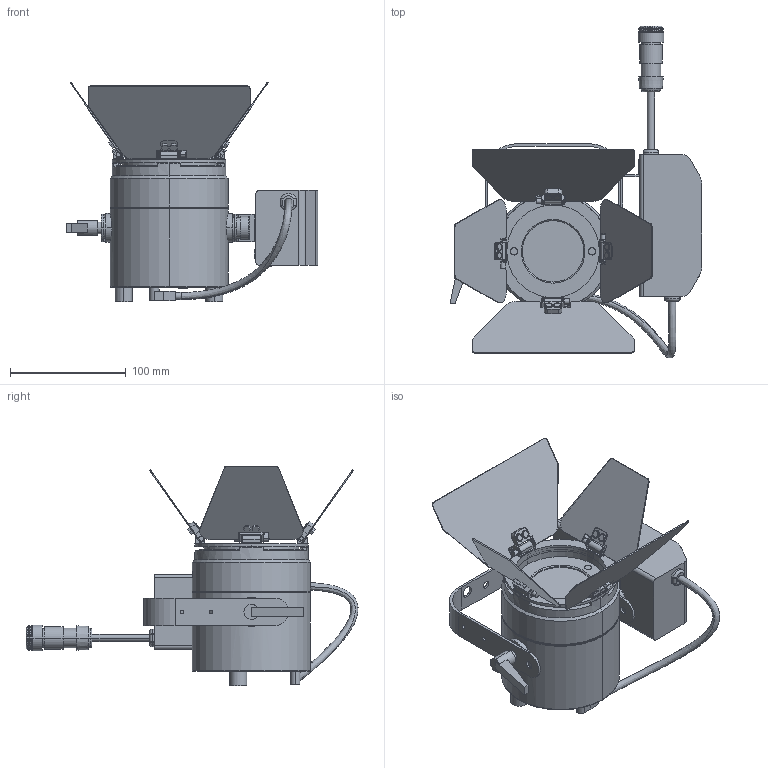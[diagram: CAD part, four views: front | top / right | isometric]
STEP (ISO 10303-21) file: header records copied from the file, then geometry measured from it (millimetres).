
FILE_DESCRIPTION (( 'STEP AP203' ), '1' );
FILE_NAME ('P3X(Clamp) Hanging.STEP', '2024-07-03T06:37:15', ( '' ), ( '' ), 'SwSTEP 2.0', 'SolidWorks 2014', '' );
FILE_SCHEMA (( 'CONFIG_CONTROL_DESIGN' ));
Length unit declared in the file: millimetre
Products named in the file (5): P3 Color - Yoke for Track and Clamp; P3 Color - Light Body; PSU 90W Clamp Mount_Hanging (for P3X); P3X(Clamp) Hanging; 3 inch 4-leaf Barndoor (for Clamp)
Assembly tree (4 placements, depth 2):
  P3X(Clamp) Hanging
    P3 Color - Yoke for Track and Clamp
    P3 Color - Light Body
    3 inch 4-leaf Barndoor (for Clamp)
    PSU 90W Clamp Mount_Hanging (for P3X)
Bounding box: 217.64 x 286.74 x 189.86 mm (x, y, z)
Volume: 1319833.5 mm3; surface area: 209542.8 mm2
Topology: 80 solids, 91 shells, 1615 faces, 3922 edges, 2556 vertices
Faces by surface type: plane 862, cylinder 466, bspline 221, cone 56, torus 10
Entity records: 56499 total; most frequent: CARTESIAN_POINT 18735, ORIENTED_EDGE 7828, DIRECTION 7288, EDGE_CURVE 3914, VERTEX_POINT 2556, LINE 2446, VECTOR 2446, AXIS2_PLACEMENT_3D 2421
